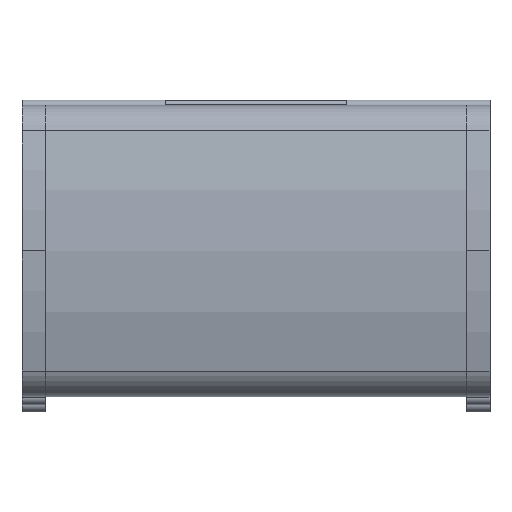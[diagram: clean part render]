
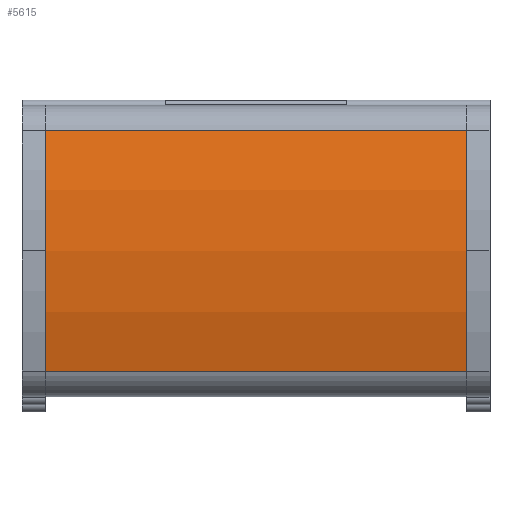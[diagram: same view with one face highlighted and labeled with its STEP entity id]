
A CAD part, top view. The second image highlights one B-rep face of the part: STEP entity #5615.
In plain terms, the highlighted cylindrical face has radius 62.373 mm (diameter 124.746 mm), a partial arc.
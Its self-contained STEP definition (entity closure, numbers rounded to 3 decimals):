
#1369 = EDGE_LOOP ( 'NONE', ( #4120, #4121, #4122, #4123 ) ) ;
#4120 = ORIENTED_EDGE ( 'NONE', *, *, #11404, .F. ) ;
#4121 = ORIENTED_EDGE ( 'NONE', *, *, #11455, .T. ) ;
#4122 = ORIENTED_EDGE ( 'NONE', *, *, #11420, .T. ) ;
#4123 = ORIENTED_EDGE ( 'NONE', *, *, #11456, .F. ) ;
#5615 = ADVANCED_FACE ( 'NONE', ( #13224 ), #13230, .T. ) ;
#11404 = EDGE_CURVE ( 'NONE', #12781, #12782, #14225, .T. ) ;
#11420 = EDGE_CURVE ( 'NONE', #12800, #12799, #14250, .T. ) ;
#11455 = EDGE_CURVE ( 'NONE', #12781, #12800, #17000, .T. ) ;
#11456 = EDGE_CURVE ( 'NONE', #12782, #12799, #17002, .T. ) ;
#11604 = AXIS2_PLACEMENT_3D ( 'NONE', #14596, #14595, #14591 ) ;
#11696 = AXIS2_PLACEMENT_3D ( 'NONE', #16650, #16664, #16665 ) ;
#11701 = AXIS2_PLACEMENT_3D ( 'NONE', #16702, #16703, #16704 ) ;
#12781 = VERTEX_POINT ( 'NONE', #19666 ) ;
#12782 = VERTEX_POINT ( 'NONE', #19667 ) ;
#12799 = VERTEX_POINT ( 'NONE', #19684 ) ;
#12800 = VERTEX_POINT ( 'NONE', #19685 ) ;
#13224 = FACE_OUTER_BOUND ( 'NONE', #1369, .T. ) ;
#13230 = CYLINDRICAL_SURFACE ( 'NONE', #11604, 62.373 ) ;
#14225 = CIRCLE ( 'NONE', #11696, 62.373 ) ;
#14250 = CIRCLE ( 'NONE', #11701, 62.373 ) ;
#14591 = DIRECTION ( 'NONE',  ( 0., 0., -1. ) ) ;
#14595 = DIRECTION ( 'NONE',  ( 1., 0., 0. ) ) ;
#14596 = CARTESIAN_POINT ( 'NONE',  ( -77.888, 12.55, -37.773 ) ) ;
#16650 = CARTESIAN_POINT ( 'NONE',  ( -29.8, 12.55, -37.773 ) ) ;
#16664 = DIRECTION ( 'NONE',  ( -1., 0., 0. ) ) ;
#16665 = DIRECTION ( 'NONE',  ( 0., 0., 1. ) ) ;
#16702 = CARTESIAN_POINT ( 'NONE',  ( 29.8, 12.55, -37.773 ) ) ;
#16703 = DIRECTION ( 'NONE',  ( -1., 0., 0. ) ) ;
#16704 = DIRECTION ( 'NONE',  ( 0., 0., 1. ) ) ;
#16774 = CARTESIAN_POINT ( 'NONE',  ( -77.888, -4.41, 22.25 ) ) ;
#16775 = DIRECTION ( 'NONE',  ( 1., 0., 0. ) ) ;
#16776 = CARTESIAN_POINT ( 'NONE',  ( -77.888, 29.51, 22.25 ) ) ;
#16777 = DIRECTION ( 'NONE',  ( 1., 0., 0. ) ) ;
#17000 = LINE ( 'NONE', #16774, #17001 ) ;
#17001 = VECTOR ( 'NONE', #16775, 1000. ) ;
#17002 = LINE ( 'NONE', #16776, #17003 ) ;
#17003 = VECTOR ( 'NONE', #16777, 1000. ) ;
#19666 = CARTESIAN_POINT ( 'NONE',  ( -29.8, -4.41, 22.25 ) ) ;
#19667 = CARTESIAN_POINT ( 'NONE',  ( -29.8, 29.51, 22.25 ) ) ;
#19684 = CARTESIAN_POINT ( 'NONE',  ( 29.8, 29.51, 22.25 ) ) ;
#19685 = CARTESIAN_POINT ( 'NONE',  ( 29.8, -4.41, 22.25 ) ) ;
